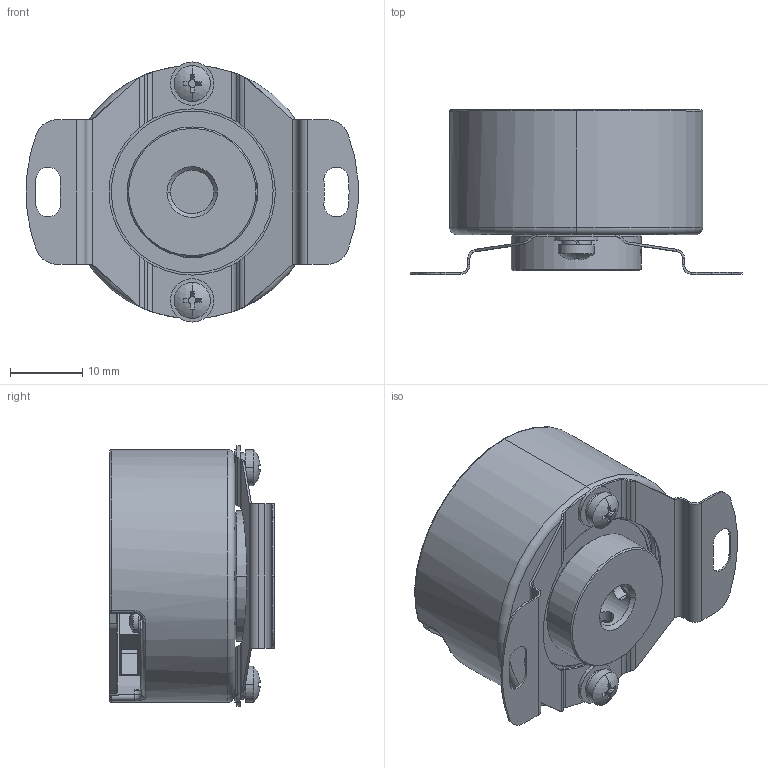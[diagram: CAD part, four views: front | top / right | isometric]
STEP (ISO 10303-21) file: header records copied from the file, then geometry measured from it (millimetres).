
FILE_DESCRIPTION (( 'STEP AP214' ), '1' );
FILE_NAME ('【整机】SRMA35整体式直轴φ6磁电编码器.STEP', '2022-08-05T00:58:08', ( '' ), ( '' ), 'SwSTEP 2.0', 'SolidWorks 2016', '' );
FILE_SCHEMA (( 'AUTOMOTIVE_DESIGN' ));
Length unit declared in the file: millimetre
Products named in the file (2): 【整机】SRMA35整体式直轴φ6磁电编码器
Bounding box: 45.94 x 22.8 x 36 mm (x, y, z)
Surface area: 8437.1 mm2 (no closed solid volume)
Topology: 0 solids, 21 shells, 283 faces, 755 edges, 489 vertices
Faces by surface type: plane 115, cylinder 103, bspline 32, cone 16, torus 11, sphere 6
Entity records: 12645 total; most frequent: CARTESIAN_POINT 2758, DIRECTION 1424, ORIENTED_EDGE 1331, EDGE_CURVE 751, AXIS2_PLACEMENT_3D 547, VERTEX_POINT 489, VECTOR 330, LINE 330
